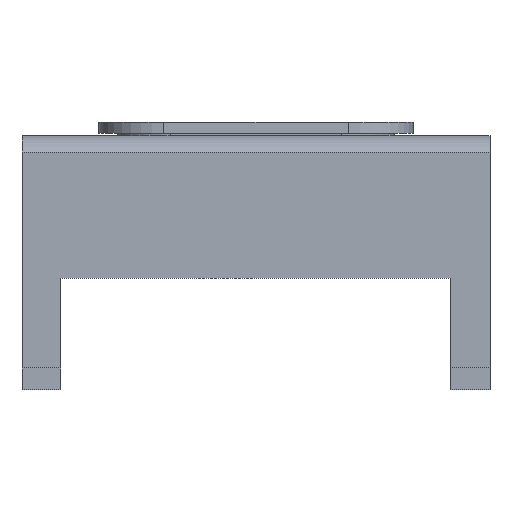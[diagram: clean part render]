
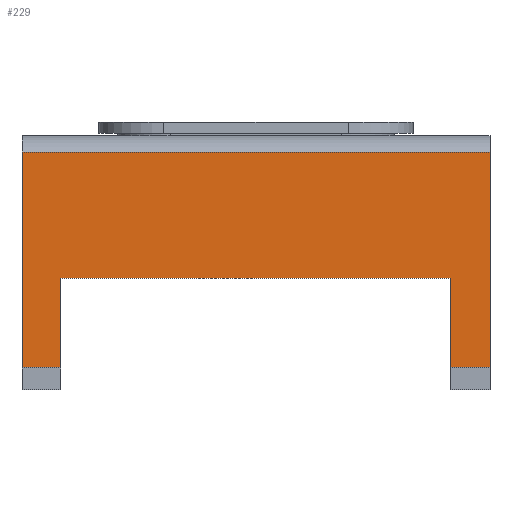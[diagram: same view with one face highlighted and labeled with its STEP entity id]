
A CAD part, front view. The second image highlights one B-rep face of the part: STEP entity #229.
In plain terms, the highlighted planar face has unit normal (0, -1, 0).
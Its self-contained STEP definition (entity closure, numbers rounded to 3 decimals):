
#117 = EDGE_CURVE('',#118,#120,#122,.T.);
#118 = VERTEX_POINT('',#119);
#119 = CARTESIAN_POINT('',(-17.5,-66.,-8.));
#120 = VERTEX_POINT('',#121);
#121 = CARTESIAN_POINT('',(-21.,-66.,-8.));
#122 = SURFACE_CURVE('',#123,(#127,#138),.PCURVE_S1.);
#123 = LINE('',#124,#125);
#124 = CARTESIAN_POINT('',(-60.5,-66.,-8.));
#125 = VECTOR('',#126,1.);
#126 = DIRECTION('',(-1.,0.,0.));
#127 = PCURVE('',#128,#133);
#128 = PLANE('',#129);
#129 = AXIS2_PLACEMENT_3D('',#130,#131,#132);
#130 = CARTESIAN_POINT('',(-100.,-110.,-8.));
#131 = DIRECTION('',(0.,0.,1.));
#132 = DIRECTION('',(1.,0.,-0.));
#133 = DEFINITIONAL_REPRESENTATION('',(#134),#137);
#134 = B_SPLINE_CURVE_WITH_KNOTS('',1,(#135,#136),.UNSPECIFIED.,.F.,.F.,
  (2,2),(-81.5,-39.5),.PIECEWISE_BEZIER_KNOTS.);
#135 = CARTESIAN_POINT('',(121.,44.));
#136 = CARTESIAN_POINT('',(79.,44.));
#137 = ( GEOMETRIC_REPRESENTATION_CONTEXT(2) 
PARAMETRIC_REPRESENTATION_CONTEXT() REPRESENTATION_CONTEXT('2D SPACE',''
  ) );
#138 = PCURVE('',#139,#144);
#139 = PLANE('',#140);
#140 = AXIS2_PLACEMENT_3D('',#141,#142,#143);
#141 = CARTESIAN_POINT('',(-21.,-66.,-12.));
#142 = DIRECTION('',(0.,1.,0.));
#143 = DIRECTION('',(0.,0.,1.));
#144 = DEFINITIONAL_REPRESENTATION('',(#145),#148);
#145 = B_SPLINE_CURVE_WITH_KNOTS('',1,(#146,#147),.UNSPECIFIED.,.F.,.F.,
  (2,2),(-81.5,-39.5),.PIECEWISE_BEZIER_KNOTS.);
#146 = CARTESIAN_POINT('',(4.,42.));
#147 = CARTESIAN_POINT('',(4.,0.));
#148 = ( GEOMETRIC_REPRESENTATION_CONTEXT(2) 
PARAMETRIC_REPRESENTATION_CONTEXT() REPRESENTATION_CONTEXT('2D SPACE',''
  ) );
#166 = PLANE('',#167);
#167 = AXIS2_PLACEMENT_3D('',#168,#169,#170);
#168 = CARTESIAN_POINT('',(-17.5,-74.,-12.));
#169 = DIRECTION('',(1.,0.,0.));
#170 = DIRECTION('',(0.,0.,1.));
#219 = PLANE('',#220);
#220 = AXIS2_PLACEMENT_3D('',#221,#222,#223);
#221 = CARTESIAN_POINT('',(-21.,-66.,-12.));
#222 = DIRECTION('',(1.,0.,0.));
#223 = DIRECTION('',(0.,0.,1.));
#229 = ADVANCED_FACE('',(#230),#139,.F.);
#230 = FACE_BOUND('',#231,.F.);
#231 = EDGE_LOOP('',(#232,#262,#288,#314,#340,#359,#360,#383));
#232 = ORIENTED_EDGE('',*,*,#233,.F.);
#233 = EDGE_CURVE('',#234,#236,#238,.T.);
#234 = VERTEX_POINT('',#235);
#235 = CARTESIAN_POINT('',(21.,-66.,-8.));
#236 = VERTEX_POINT('',#237);
#237 = CARTESIAN_POINT('',(21.,-66.,11.332));
#238 = SURFACE_CURVE('',#239,(#243,#250),.PCURVE_S1.);
#239 = LINE('',#240,#241);
#240 = CARTESIAN_POINT('',(21.,-66.,-12.));
#241 = VECTOR('',#242,1.);
#242 = DIRECTION('',(0.,0.,1.));
#243 = PCURVE('',#139,#244);
#244 = DEFINITIONAL_REPRESENTATION('',(#245),#249);
#245 = LINE('',#246,#247);
#246 = CARTESIAN_POINT('',(0.,42.));
#247 = VECTOR('',#248,1.);
#248 = DIRECTION('',(1.,0.));
#249 = ( GEOMETRIC_REPRESENTATION_CONTEXT(2) 
PARAMETRIC_REPRESENTATION_CONTEXT() REPRESENTATION_CONTEXT('2D SPACE',''
  ) );
#250 = PCURVE('',#251,#256);
#251 = PLANE('',#252);
#252 = AXIS2_PLACEMENT_3D('',#253,#254,#255);
#253 = CARTESIAN_POINT('',(21.,-66.,-12.));
#254 = DIRECTION('',(1.,0.,0.));
#255 = DIRECTION('',(0.,0.,1.));
#256 = DEFINITIONAL_REPRESENTATION('',(#257),#261);
#257 = LINE('',#258,#259);
#258 = CARTESIAN_POINT('',(0.,0.));
#259 = VECTOR('',#260,1.);
#260 = DIRECTION('',(1.,0.));
#261 = ( GEOMETRIC_REPRESENTATION_CONTEXT(2) 
PARAMETRIC_REPRESENTATION_CONTEXT() REPRESENTATION_CONTEXT('2D SPACE',''
  ) );
#262 = ORIENTED_EDGE('',*,*,#263,.T.);
#263 = EDGE_CURVE('',#234,#264,#266,.T.);
#264 = VERTEX_POINT('',#265);
#265 = CARTESIAN_POINT('',(17.5,-66.,-8.));
#266 = SURFACE_CURVE('',#267,(#271,#277),.PCURVE_S1.);
#267 = LINE('',#268,#269);
#268 = CARTESIAN_POINT('',(-60.5,-66.,-8.));
#269 = VECTOR('',#270,1.);
#270 = DIRECTION('',(-1.,0.,0.));
#271 = PCURVE('',#139,#272);
#272 = DEFINITIONAL_REPRESENTATION('',(#273),#276);
#273 = B_SPLINE_CURVE_WITH_KNOTS('',1,(#274,#275),.UNSPECIFIED.,.F.,.F.,
  (2,2),(-81.5,-78.),.PIECEWISE_BEZIER_KNOTS.);
#274 = CARTESIAN_POINT('',(4.,42.));
#275 = CARTESIAN_POINT('',(4.,38.5));
#276 = ( GEOMETRIC_REPRESENTATION_CONTEXT(2) 
PARAMETRIC_REPRESENTATION_CONTEXT() REPRESENTATION_CONTEXT('2D SPACE',''
  ) );
#277 = PCURVE('',#278,#283);
#278 = PLANE('',#279);
#279 = AXIS2_PLACEMENT_3D('',#280,#281,#282);
#280 = CARTESIAN_POINT('',(-100.,-110.,-8.));
#281 = DIRECTION('',(0.,0.,1.));
#282 = DIRECTION('',(1.,0.,-0.));
#283 = DEFINITIONAL_REPRESENTATION('',(#284),#287);
#284 = B_SPLINE_CURVE_WITH_KNOTS('',1,(#285,#286),.UNSPECIFIED.,.F.,.F.,
  (2,2),(-81.5,-78.),.PIECEWISE_BEZIER_KNOTS.);
#285 = CARTESIAN_POINT('',(121.,44.));
#286 = CARTESIAN_POINT('',(117.5,44.));
#287 = ( GEOMETRIC_REPRESENTATION_CONTEXT(2) 
PARAMETRIC_REPRESENTATION_CONTEXT() REPRESENTATION_CONTEXT('2D SPACE',''
  ) );
#288 = ORIENTED_EDGE('',*,*,#289,.T.);
#289 = EDGE_CURVE('',#264,#290,#292,.T.);
#290 = VERTEX_POINT('',#291);
#291 = CARTESIAN_POINT('',(17.5,-66.,0.));
#292 = SURFACE_CURVE('',#293,(#297,#303),.PCURVE_S1.);
#293 = LINE('',#294,#295);
#294 = CARTESIAN_POINT('',(17.5,-66.,-12.));
#295 = VECTOR('',#296,1.);
#296 = DIRECTION('',(0.,0.,1.));
#297 = PCURVE('',#139,#298);
#298 = DEFINITIONAL_REPRESENTATION('',(#299),#302);
#299 = B_SPLINE_CURVE_WITH_KNOTS('',1,(#300,#301),.UNSPECIFIED.,.F.,.F.,
  (2,2),(2.,12.),.PIECEWISE_BEZIER_KNOTS.);
#300 = CARTESIAN_POINT('',(2.,38.5));
#301 = CARTESIAN_POINT('',(12.,38.5));
#302 = ( GEOMETRIC_REPRESENTATION_CONTEXT(2) 
PARAMETRIC_REPRESENTATION_CONTEXT() REPRESENTATION_CONTEXT('2D SPACE',''
  ) );
#303 = PCURVE('',#304,#309);
#304 = PLANE('',#305);
#305 = AXIS2_PLACEMENT_3D('',#306,#307,#308);
#306 = CARTESIAN_POINT('',(17.5,-74.,-12.));
#307 = DIRECTION('',(1.,0.,0.));
#308 = DIRECTION('',(0.,0.,1.));
#309 = DEFINITIONAL_REPRESENTATION('',(#310),#313);
#310 = B_SPLINE_CURVE_WITH_KNOTS('',1,(#311,#312),.UNSPECIFIED.,.F.,.F.,
  (2,2),(2.,12.),.PIECEWISE_BEZIER_KNOTS.);
#311 = CARTESIAN_POINT('',(2.,-8.));
#312 = CARTESIAN_POINT('',(12.,-8.));
#313 = ( GEOMETRIC_REPRESENTATION_CONTEXT(2) 
PARAMETRIC_REPRESENTATION_CONTEXT() REPRESENTATION_CONTEXT('2D SPACE',''
  ) );
#314 = ORIENTED_EDGE('',*,*,#315,.T.);
#315 = EDGE_CURVE('',#290,#316,#318,.T.);
#316 = VERTEX_POINT('',#317);
#317 = CARTESIAN_POINT('',(-17.5,-66.,0.));
#318 = SURFACE_CURVE('',#319,(#323,#329),.PCURVE_S1.);
#319 = LINE('',#320,#321);
#320 = CARTESIAN_POINT('',(-19.25,-66.,0.));
#321 = VECTOR('',#322,1.);
#322 = DIRECTION('',(-1.,0.,0.));
#323 = PCURVE('',#139,#324);
#324 = DEFINITIONAL_REPRESENTATION('',(#325),#328);
#325 = B_SPLINE_CURVE_WITH_KNOTS('',1,(#326,#327),.UNSPECIFIED.,.F.,.F.,
  (2,2),(-36.75,-1.75),.PIECEWISE_BEZIER_KNOTS.);
#326 = CARTESIAN_POINT('',(12.,38.5));
#327 = CARTESIAN_POINT('',(12.,3.5));
#328 = ( GEOMETRIC_REPRESENTATION_CONTEXT(2) 
PARAMETRIC_REPRESENTATION_CONTEXT() REPRESENTATION_CONTEXT('2D SPACE',''
  ) );
#329 = PCURVE('',#330,#335);
#330 = PLANE('',#331);
#331 = AXIS2_PLACEMENT_3D('',#332,#333,#334);
#332 = CARTESIAN_POINT('',(-17.5,-74.,0.));
#333 = DIRECTION('',(0.,0.,1.));
#334 = DIRECTION('',(1.,0.,-0.));
#335 = DEFINITIONAL_REPRESENTATION('',(#336),#339);
#336 = B_SPLINE_CURVE_WITH_KNOTS('',1,(#337,#338),.UNSPECIFIED.,.F.,.F.,
  (2,2),(-36.75,-1.75),.PIECEWISE_BEZIER_KNOTS.);
#337 = CARTESIAN_POINT('',(35.,8.));
#338 = CARTESIAN_POINT('',(0.,8.));
#339 = ( GEOMETRIC_REPRESENTATION_CONTEXT(2) 
PARAMETRIC_REPRESENTATION_CONTEXT() REPRESENTATION_CONTEXT('2D SPACE',''
  ) );
#340 = ORIENTED_EDGE('',*,*,#341,.F.);
#341 = EDGE_CURVE('',#118,#316,#342,.T.);
#342 = SURFACE_CURVE('',#343,(#347,#353),.PCURVE_S1.);
#343 = LINE('',#344,#345);
#344 = CARTESIAN_POINT('',(-17.5,-66.,-12.));
#345 = VECTOR('',#346,1.);
#346 = DIRECTION('',(0.,0.,1.));
#347 = PCURVE('',#139,#348);
#348 = DEFINITIONAL_REPRESENTATION('',(#349),#352);
#349 = B_SPLINE_CURVE_WITH_KNOTS('',1,(#350,#351),.UNSPECIFIED.,.F.,.F.,
  (2,2),(2.,12.),.PIECEWISE_BEZIER_KNOTS.);
#350 = CARTESIAN_POINT('',(2.,3.5));
#351 = CARTESIAN_POINT('',(12.,3.5));
#352 = ( GEOMETRIC_REPRESENTATION_CONTEXT(2) 
PARAMETRIC_REPRESENTATION_CONTEXT() REPRESENTATION_CONTEXT('2D SPACE',''
  ) );
#353 = PCURVE('',#166,#354);
#354 = DEFINITIONAL_REPRESENTATION('',(#355),#358);
#355 = B_SPLINE_CURVE_WITH_KNOTS('',1,(#356,#357),.UNSPECIFIED.,.F.,.F.,
  (2,2),(2.,12.),.PIECEWISE_BEZIER_KNOTS.);
#356 = CARTESIAN_POINT('',(2.,-8.));
#357 = CARTESIAN_POINT('',(12.,-8.));
#358 = ( GEOMETRIC_REPRESENTATION_CONTEXT(2) 
PARAMETRIC_REPRESENTATION_CONTEXT() REPRESENTATION_CONTEXT('2D SPACE',''
  ) );
#359 = ORIENTED_EDGE('',*,*,#117,.T.);
#360 = ORIENTED_EDGE('',*,*,#361,.T.);
#361 = EDGE_CURVE('',#120,#362,#364,.T.);
#362 = VERTEX_POINT('',#363);
#363 = CARTESIAN_POINT('',(-21.,-66.,11.332));
#364 = SURFACE_CURVE('',#365,(#369,#376),.PCURVE_S1.);
#365 = LINE('',#366,#367);
#366 = CARTESIAN_POINT('',(-21.,-66.,-12.));
#367 = VECTOR('',#368,1.);
#368 = DIRECTION('',(0.,0.,1.));
#369 = PCURVE('',#139,#370);
#370 = DEFINITIONAL_REPRESENTATION('',(#371),#375);
#371 = LINE('',#372,#373);
#372 = CARTESIAN_POINT('',(0.,0.));
#373 = VECTOR('',#374,1.);
#374 = DIRECTION('',(1.,0.));
#375 = ( GEOMETRIC_REPRESENTATION_CONTEXT(2) 
PARAMETRIC_REPRESENTATION_CONTEXT() REPRESENTATION_CONTEXT('2D SPACE',''
  ) );
#376 = PCURVE('',#219,#377);
#377 = DEFINITIONAL_REPRESENTATION('',(#378),#382);
#378 = LINE('',#379,#380);
#379 = CARTESIAN_POINT('',(0.,0.));
#380 = VECTOR('',#381,1.);
#381 = DIRECTION('',(1.,0.));
#382 = ( GEOMETRIC_REPRESENTATION_CONTEXT(2) 
PARAMETRIC_REPRESENTATION_CONTEXT() REPRESENTATION_CONTEXT('2D SPACE',''
  ) );
#383 = ORIENTED_EDGE('',*,*,#384,.F.);
#384 = EDGE_CURVE('',#236,#362,#385,.T.);
#385 = SURFACE_CURVE('',#386,(#390,#396),.PCURVE_S1.);
#386 = LINE('',#387,#388);
#387 = CARTESIAN_POINT('',(25.,-66.,11.332));
#388 = VECTOR('',#389,1.);
#389 = DIRECTION('',(-1.,-0.,-0.));
#390 = PCURVE('',#139,#391);
#391 = DEFINITIONAL_REPRESENTATION('',(#392),#395);
#392 = B_SPLINE_CURVE_WITH_KNOTS('',1,(#393,#394),.UNSPECIFIED.,.F.,.F.,
  (2,2),(0.,50.),.PIECEWISE_BEZIER_KNOTS.);
#393 = CARTESIAN_POINT('',(23.332,46.));
#394 = CARTESIAN_POINT('',(23.332,-4.));
#395 = ( GEOMETRIC_REPRESENTATION_CONTEXT(2) 
PARAMETRIC_REPRESENTATION_CONTEXT() REPRESENTATION_CONTEXT('2D SPACE',''
  ) );
#396 = PCURVE('',#397,#402);
#397 = CYLINDRICAL_SURFACE('',#398,3.8);
#398 = AXIS2_PLACEMENT_3D('',#399,#400,#401);
#399 = CARTESIAN_POINT('',(25.,-63.,9.));
#400 = DIRECTION('',(-1.,-0.,-0.));
#401 = DIRECTION('',(0.,-1.,0.));
#402 = DEFINITIONAL_REPRESENTATION('',(#403),#406);
#403 = B_SPLINE_CURVE_WITH_KNOTS('',1,(#404,#405),.UNSPECIFIED.,.F.,.F.,
  (2,2),(0.,50.),.PIECEWISE_BEZIER_KNOTS.);
#404 = CARTESIAN_POINT('',(0.661,0.));
#405 = CARTESIAN_POINT('',(0.661,50.));
#406 = ( GEOMETRIC_REPRESENTATION_CONTEXT(2) 
PARAMETRIC_REPRESENTATION_CONTEXT() REPRESENTATION_CONTEXT('2D SPACE',''
  ) );
